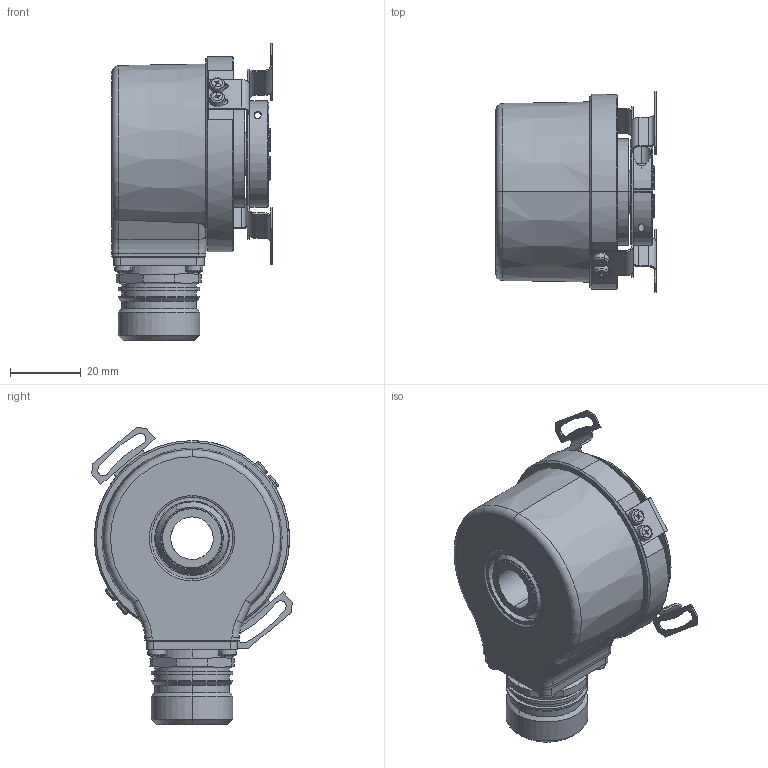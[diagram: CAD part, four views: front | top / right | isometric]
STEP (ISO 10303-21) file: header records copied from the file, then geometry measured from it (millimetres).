
FILE_DESCRIPTION (( 'STEP AP214' ), '1' );
FILE_NAME ('5020.D5X4.XXXX.STEP', '2007-06-18T09:59:15', ( 'DanneckerS' ), ( ' ' ), 'SwSTEP 2.0', 'SolidWorks 2007', '' );
FILE_SCHEMA (( 'AUTOMOTIVE_DESIGN' ));
Length unit declared in the file: millimetre
Products named in the file (1): 5020.D5X4.XXXX
Bounding box: 45.2 x 56.46 x 83.69 mm (x, y, z)
Surface area: 23502 mm2 (no closed solid volume)
Topology: 0 solids, 39 shells, 476 faces, 1359 edges, 898 vertices
Faces by surface type: plane 188, cylinder 170, cone 42, torus 40, sphere 32, bspline 4
Entity records: 21085 total; most frequent: CARTESIAN_POINT 3191, DIRECTION 2871, ORIENTED_EDGE 2367, EDGE_CURVE 1335, AXIS2_PLACEMENT_3D 1130, VERTEX_POINT 898, CIRCLE 657, VECTOR 611
